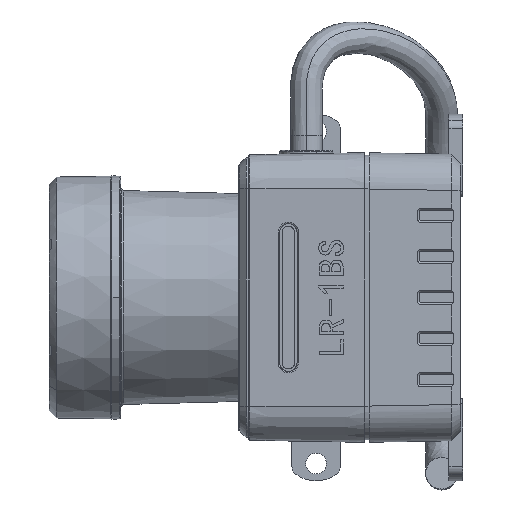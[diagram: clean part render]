
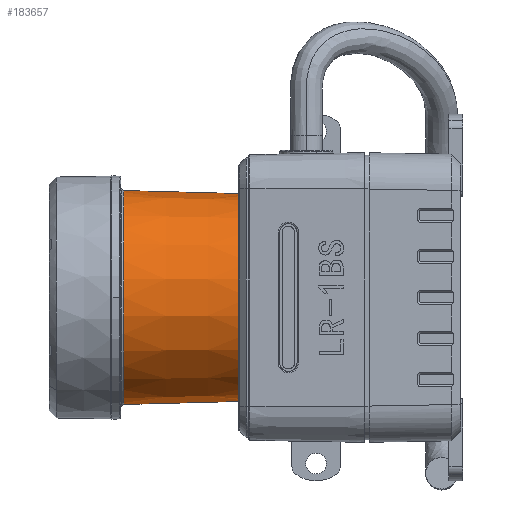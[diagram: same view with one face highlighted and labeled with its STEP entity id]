
A CAD part, left-side view. The second image highlights one B-rep face of the part: STEP entity #183657.
In plain terms, the highlighted conical face has half-angle 1.5 degrees and reference radius 22.207 mm.
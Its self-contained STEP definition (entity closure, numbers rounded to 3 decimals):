
#1178 = CARTESIAN_POINT ( 'NONE',  ( -5., 43.787, -21.474 ) ) ;
#1612 = CARTESIAN_POINT ( 'NONE',  ( -5., 69.813, 22.156 ) ) ;
#12773 = CARTESIAN_POINT ( 'NONE',  ( -5., 43.787, 0. ) ) ;
#16822 = ORIENTED_EDGE ( 'NONE', *, *, #118136, .T. ) ;
#19803 = FACE_OUTER_BOUND ( 'NONE', #36534, .T. ) ;
#22287 = CARTESIAN_POINT ( 'NONE',  ( -5., 69.813, -22.156 ) ) ;
#27476 = DIRECTION ( 'NONE',  ( 0., 0., -1. ) ) ;
#30484 = CARTESIAN_POINT ( 'NONE',  ( -5., 71.8, -22.208 ) ) ;
#33237 = ORIENTED_EDGE ( 'NONE', *, *, #65583, .F. ) ;
#36169 = CARTESIAN_POINT ( 'NONE',  ( -5., 71.8, 22.208 ) ) ;
#36534 = EDGE_LOOP ( 'NONE', ( #33237, #16822, #82643, #55424 ) ) ;
#46235 = VECTOR ( 'NONE', #65556, 1000. ) ;
#55424 = ORIENTED_EDGE ( 'NONE', *, *, #60336, .T. ) ;
#57006 = CARTESIAN_POINT ( 'NONE',  ( -5., 71.8, 0. ) ) ;
#58261 = DIRECTION ( 'NONE',  ( 0., 0., 1. ) ) ;
#60336 = EDGE_CURVE ( 'NONE', #153359, #96083, #145292, .T. ) ;
#65556 = DIRECTION ( 'NONE',  ( 0., 1., 0.026 ) ) ;
#65583 = EDGE_CURVE ( 'NONE', #122147, #96083, #150989, .T. ) ;
#69516 = CARTESIAN_POINT ( 'NONE',  ( -5., 69.813, 0. ) ) ;
#72343 = DIRECTION ( 'NONE',  ( 0., 1., 0. ) ) ;
#79291 = CONICAL_SURFACE ( 'NONE', #91200, 22.208, 0.026 ) ;
#82643 = ORIENTED_EDGE ( 'NONE', *, *, #82977, .T. ) ;
#82977 = EDGE_CURVE ( 'NONE', #163672, #153359, #85146, .T. ) ;
#84196 = DIRECTION ( 'NONE',  ( 0., 0., -1. ) ) ;
#85146 = LINE ( 'NONE', #36169, #46235 ) ;
#89978 = DIRECTION ( 'NONE',  ( 0., 1., -0.026 ) ) ;
#91200 = AXIS2_PLACEMENT_3D ( 'NONE', #57006, #72343, #58261 ) ;
#96083 = VERTEX_POINT ( 'NONE', #22287 ) ;
#96590 = AXIS2_PLACEMENT_3D ( 'NONE', #12773, #115260, #27476 ) ;
#112022 = VECTOR ( 'NONE', #89978, 1000. ) ;
#115260 = DIRECTION ( 'NONE',  ( 0., 1., 0. ) ) ;
#118136 = EDGE_CURVE ( 'NONE', #122147, #163672, #124069, .T. ) ;
#122147 = VERTEX_POINT ( 'NONE', #1178 ) ;
#124069 = CIRCLE ( 'NONE', #96590, 21.474 ) ;
#130835 = AXIS2_PLACEMENT_3D ( 'NONE', #69516, #172051, #84196 ) ;
#135910 = CARTESIAN_POINT ( 'NONE',  ( -5., 43.787, 21.474 ) ) ;
#145292 = CIRCLE ( 'NONE', #130835, 22.156 ) ;
#150989 = LINE ( 'NONE', #30484, #112022 ) ;
#153359 = VERTEX_POINT ( 'NONE', #1612 ) ;
#163672 = VERTEX_POINT ( 'NONE', #135910 ) ;
#172051 = DIRECTION ( 'NONE',  ( 0., -1., 0. ) ) ;
#183657 = ADVANCED_FACE ( 'NONE', ( #19803 ), #79291, .T. ) ;
